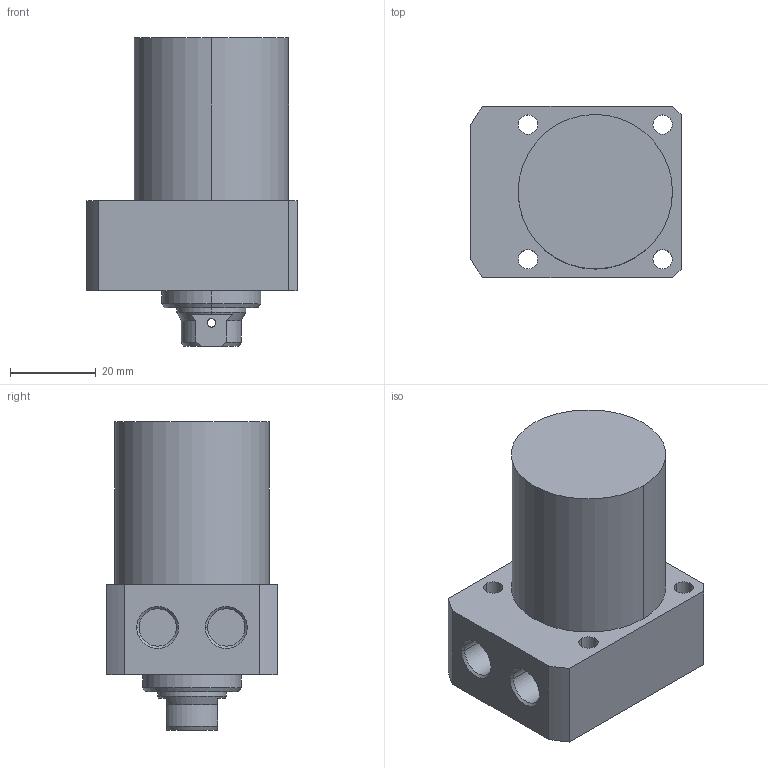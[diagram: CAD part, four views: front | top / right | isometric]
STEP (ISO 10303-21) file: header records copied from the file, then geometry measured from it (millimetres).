
FILE_DESCRIPTION((' '),'2;1');
FILE_NAME( 'TLLR-036CB-030.STEP.stp', '2025-10-24T16:35:45', (' '), ('--- Datakit www.datakit.com---'), ' Datakit CrossCadWare V2024.1 Dec 21 2023', 'Mastercam 2025', ' ');
FILE_SCHEMA(('AUTOMOTIVE_DESIGN { 1 0 10303 214 1 1 1 1 }'));
Length unit declared in the file: millimetre
Products named in the file (1): TLLR-036CB-030
Bounding box: 49 x 40 x 72 mm (x, y, z)
Volume: 79360.6 mm3; surface area: 14410.1 mm2
Topology: 1 solids, 1 shells, 65 faces, 192 edges, 133 vertices
Faces by surface type: cylinder 32, plane 19, cone 14
Entity records: 2878 total; most frequent: CARTESIAN_POINT 1013, DIRECTION 410, ORIENTED_EDGE 380, EDGE_CURVE 190, AXIS2_PLACEMENT_3D 170, VERTEX_POINT 133, CIRCLE 104, EDGE_LOOP 83
